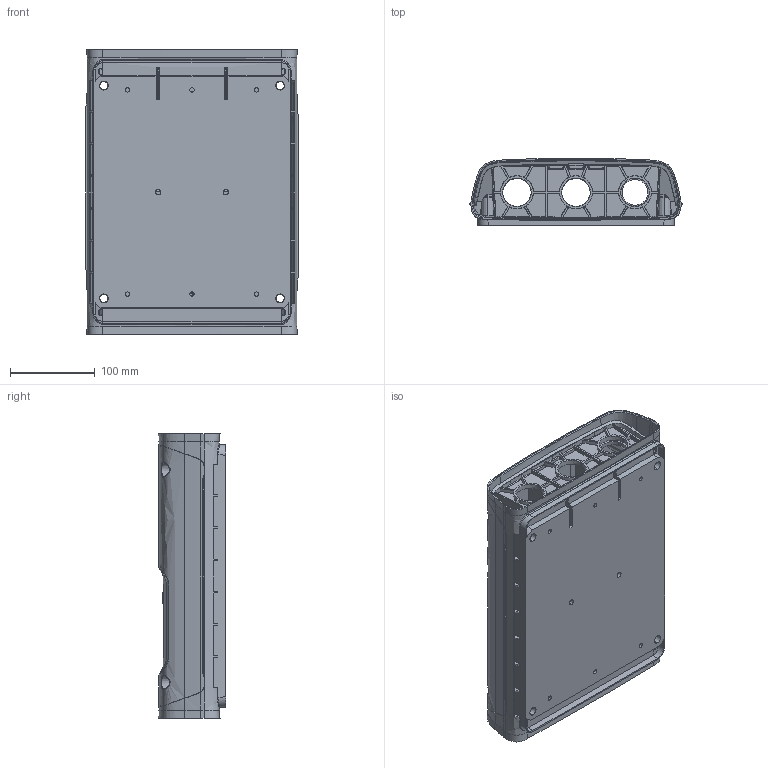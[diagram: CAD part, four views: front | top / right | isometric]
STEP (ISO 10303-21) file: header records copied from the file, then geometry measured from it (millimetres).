
FILE_DESCRIPTION (( 'STEP AP203' ), '1' );
FILE_NAME ('PS48_CDN.STEP', '2020-06-19T18:14:31', ( '' ), ( '' ), 'SwSTEP 2.0', 'SolidWorks 2018', '' );
FILE_SCHEMA (( 'CONFIG_CONTROL_DESIGN' ));
Length unit declared in the file: inch
Products named in the file (1): PS48_CDN
Bounding box: 251.06 x 79.58 x 336.55 mm (x, y, z)
Surface area: 463881.7 mm2 (no closed solid volume)
Topology: 0 solids, 25 shells, 792 faces, 3113 edges, 2302 vertices
Faces by surface type: plane 341, bspline 238, cone 164, cylinder 49
Entity records: 70754 total; most frequent: CARTESIAN_POINT 48621, ORIENTED_EDGE 5015, DIRECTION 3164, EDGE_CURVE 3113, VERTEX_POINT 2302, VECTOR 1288, LINE 1288, B_SPLINE_CURVE_WITH_KNOTS 1260
